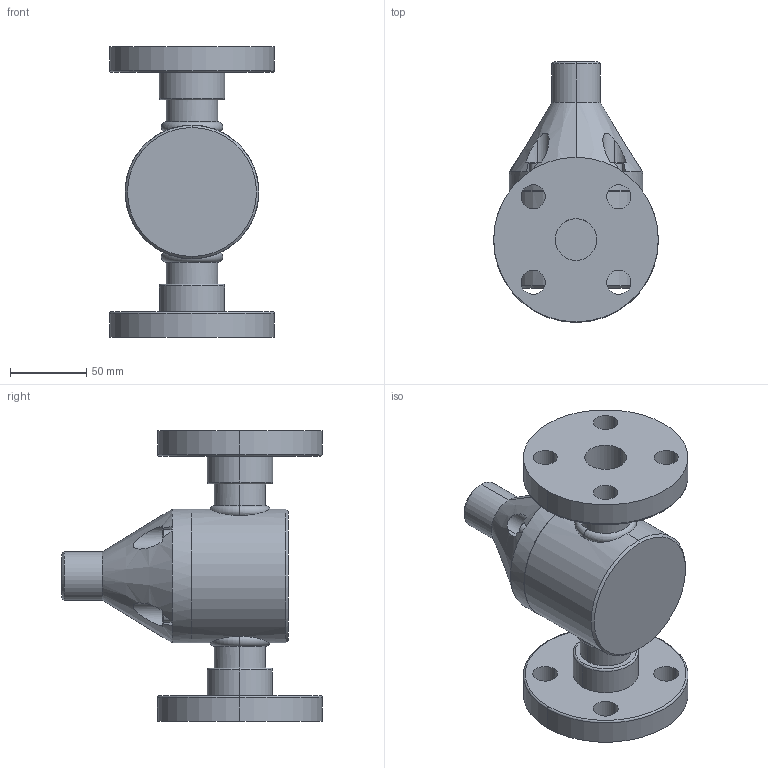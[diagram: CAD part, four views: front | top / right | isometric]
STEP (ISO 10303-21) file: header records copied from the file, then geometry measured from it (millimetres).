
FILE_DESCRIPTION (( 'STEP AP203' ), '1' );
FILE_NAME ('GBP1000-FLNG.STEP', '2016-02-12T10:24:27', ( '' ), ( '' ), 'SwSTEP 2.0', 'SolidWorks 2014', '' );
FILE_SCHEMA (( 'CONFIG_CONTROL_DESIGN' ));
Length unit declared in the file: inch
Products named in the file (2): GBP1000-FLNG
Bounding box: 108.09 x 170.89 x 190.5 mm (x, y, z)
Volume: 958808.5 mm3; surface area: 107362.6 mm2
Topology: 1 solids, 1 shells, 162 faces, 392 edges, 250 vertices
Faces by surface type: plane 76, cylinder 54, cone 20, torus 12
Entity records: 5567 total; most frequent: CARTESIAN_POINT 1504, DIRECTION 846, ORIENTED_EDGE 784, EDGE_CURVE 392, AXIS2_PLACEMENT_3D 320, VERTEX_POINT 250, LINE 206, VECTOR 206
